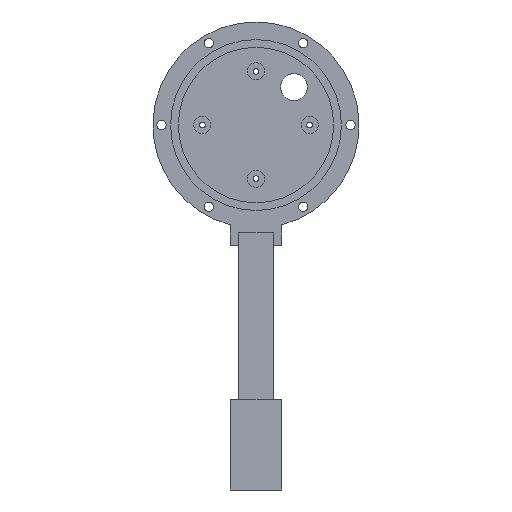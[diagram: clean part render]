
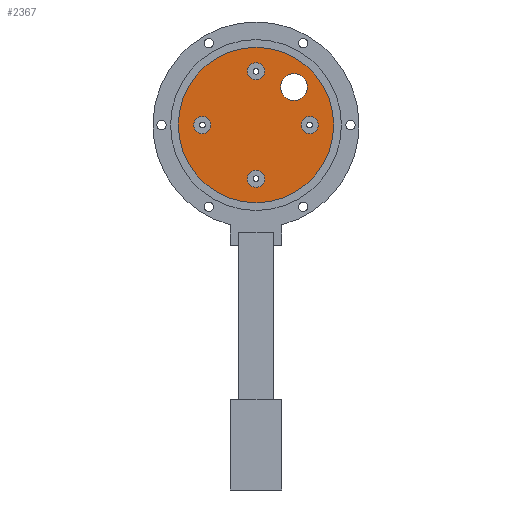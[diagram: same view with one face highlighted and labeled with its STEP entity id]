
A CAD part, left-side view. The second image highlights one B-rep face of the part: STEP entity #2367.
In plain terms, the highlighted planar face has unit normal (-1, 0, 0).
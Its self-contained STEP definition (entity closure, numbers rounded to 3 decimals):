
#958 = CYLINDRICAL_SURFACE('',#959,6.25);
#959 = AXIS2_PLACEMENT_3D('',#960,#961,#962);
#960 = CARTESIAN_POINT('',(71.8,-17.678,17.678));
#961 = DIRECTION('',(1.,0.,0.));
#962 = DIRECTION('',(-0.,0.,1.));
#1834 = VERTEX_POINT('',#1835);
#1835 = CARTESIAN_POINT('',(72.8,-17.678,23.928));
#1856 = EDGE_CURVE('',#1834,#1834,#1857,.T.);
#1857 = SURFACE_CURVE('',#1858,(#1863,#1870),.PCURVE_S1.);
#1858 = CIRCLE('',#1859,6.25);
#1859 = AXIS2_PLACEMENT_3D('',#1860,#1861,#1862);
#1860 = CARTESIAN_POINT('',(72.8,-17.678,17.678));
#1861 = DIRECTION('',(1.,0.,0.));
#1862 = DIRECTION('',(-0.,0.,1.));
#1863 = PCURVE('',#958,#1864);
#1864 = DEFINITIONAL_REPRESENTATION('',(#1865),#1869);
#1865 = LINE('',#1866,#1867);
#1866 = CARTESIAN_POINT('',(0.,1.));
#1867 = VECTOR('',#1868,1.);
#1868 = DIRECTION('',(1.,0.));
#1869 = ( GEOMETRIC_REPRESENTATION_CONTEXT(2) 
PARAMETRIC_REPRESENTATION_CONTEXT() REPRESENTATION_CONTEXT('2D SPACE',''
  ) );
#1870 = PCURVE('',#1871,#1876);
#1871 = PLANE('',#1872);
#1872 = AXIS2_PLACEMENT_3D('',#1873,#1874,#1875);
#1873 = CARTESIAN_POINT('',(72.8,0.,0.
    ));
#1874 = DIRECTION('',(1.,0.,0.));
#1875 = DIRECTION('',(-0.,0.,1.));
#1876 = DEFINITIONAL_REPRESENTATION('',(#1877),#1881);
#1877 = CIRCLE('',#1878,6.25);
#1878 = AXIS2_PLACEMENT_2D('',#1879,#1880);
#1879 = CARTESIAN_POINT('',(17.678,17.678));
#1880 = DIRECTION('',(1.,0.));
#1881 = ( GEOMETRIC_REPRESENTATION_CONTEXT(2) 
PARAMETRIC_REPRESENTATION_CONTEXT() REPRESENTATION_CONTEXT('2D SPACE',''
  ) );
#2173 = CYLINDRICAL_SURFACE('',#2174,36.2);
#2174 = AXIS2_PLACEMENT_3D('',#2175,#2176,#2177);
#2175 = CARTESIAN_POINT('',(71.8,0.,0.)
  );
#2176 = DIRECTION('',(-1.,-0.,-0.));
#2177 = DIRECTION('',(0.,1.,0.));
#2367 = ADVANCED_FACE('',(#2368,#2398,#2429,#2460,#2491,#2522),#1871,.F.
  );
#2368 = FACE_BOUND('',#2369,.F.);
#2369 = EDGE_LOOP('',(#2370));
#2370 = ORIENTED_EDGE('',*,*,#2371,.F.);
#2371 = EDGE_CURVE('',#2372,#2372,#2374,.T.);
#2372 = VERTEX_POINT('',#2373);
#2373 = CARTESIAN_POINT('',(72.8,36.2,0.));
#2374 = SURFACE_CURVE('',#2375,(#2380,#2391),.PCURVE_S1.);
#2375 = CIRCLE('',#2376,36.2);
#2376 = AXIS2_PLACEMENT_3D('',#2377,#2378,#2379);
#2377 = CARTESIAN_POINT('',(72.8,0.,0.)
  );
#2378 = DIRECTION('',(-1.,0.,0.));
#2379 = DIRECTION('',(0.,1.,0.));
#2380 = PCURVE('',#1871,#2381);
#2381 = DEFINITIONAL_REPRESENTATION('',(#2382),#2390);
#2382 = ( BOUNDED_CURVE() B_SPLINE_CURVE(2,(#2383,#2384,#2385,#2386,
#2387,#2388,#2389),.UNSPECIFIED.,.T.,.F.) B_SPLINE_CURVE_WITH_KNOTS((1,2
    ,2,2,2,1),(-2.094,0.,2.094,4.189,
6.283,8.378),.UNSPECIFIED.) CURVE() 
GEOMETRIC_REPRESENTATION_ITEM() RATIONAL_B_SPLINE_CURVE((1.,0.5,1.,0.5,
1.,0.5,1.)) REPRESENTATION_ITEM('') );
#2383 = CARTESIAN_POINT('',(0.,-36.2));
#2384 = CARTESIAN_POINT('',(-62.7,-36.2));
#2385 = CARTESIAN_POINT('',(-31.35,18.1));
#2386 = CARTESIAN_POINT('',(0.,72.4));
#2387 = CARTESIAN_POINT('',(31.35,18.1));
#2388 = CARTESIAN_POINT('',(62.7,-36.2));
#2389 = CARTESIAN_POINT('',(0.,-36.2));
#2390 = ( GEOMETRIC_REPRESENTATION_CONTEXT(2) 
PARAMETRIC_REPRESENTATION_CONTEXT() REPRESENTATION_CONTEXT('2D SPACE',''
  ) );
#2391 = PCURVE('',#2173,#2392);
#2392 = DEFINITIONAL_REPRESENTATION('',(#2393),#2397);
#2393 = LINE('',#2394,#2395);
#2394 = CARTESIAN_POINT('',(-6.283,-1.));
#2395 = VECTOR('',#2396,1.);
#2396 = DIRECTION('',(1.,-0.));
#2397 = ( GEOMETRIC_REPRESENTATION_CONTEXT(2) 
PARAMETRIC_REPRESENTATION_CONTEXT() REPRESENTATION_CONTEXT('2D SPACE',''
  ) );
#2398 = FACE_BOUND('',#2399,.F.);
#2399 = EDGE_LOOP('',(#2400));
#2400 = ORIENTED_EDGE('',*,*,#2401,.F.);
#2401 = EDGE_CURVE('',#2402,#2402,#2404,.T.);
#2402 = VERTEX_POINT('',#2403);
#2403 = CARTESIAN_POINT('',(72.8,25.,4.));
#2404 = SURFACE_CURVE('',#2405,(#2410,#2417),.PCURVE_S1.);
#2405 = CIRCLE('',#2406,4.);
#2406 = AXIS2_PLACEMENT_3D('',#2407,#2408,#2409);
#2407 = CARTESIAN_POINT('',(72.8,25.,0.));
#2408 = DIRECTION('',(1.,0.,0.));
#2409 = DIRECTION('',(-0.,0.,1.));
#2410 = PCURVE('',#1871,#2411);
#2411 = DEFINITIONAL_REPRESENTATION('',(#2412),#2416);
#2412 = CIRCLE('',#2413,4.);
#2413 = AXIS2_PLACEMENT_2D('',#2414,#2415);
#2414 = CARTESIAN_POINT('',(0.,-25.));
#2415 = DIRECTION('',(1.,0.));
#2416 = ( GEOMETRIC_REPRESENTATION_CONTEXT(2) 
PARAMETRIC_REPRESENTATION_CONTEXT() REPRESENTATION_CONTEXT('2D SPACE',''
  ) );
#2417 = PCURVE('',#2418,#2423);
#2418 = CYLINDRICAL_SURFACE('',#2419,4.);
#2419 = AXIS2_PLACEMENT_3D('',#2420,#2421,#2422);
#2420 = CARTESIAN_POINT('',(66.8,25.,0.));
#2421 = DIRECTION('',(1.,0.,0.));
#2422 = DIRECTION('',(-0.,0.,1.));
#2423 = DEFINITIONAL_REPRESENTATION('',(#2424),#2428);
#2424 = LINE('',#2425,#2426);
#2425 = CARTESIAN_POINT('',(0.,6.));
#2426 = VECTOR('',#2427,1.);
#2427 = DIRECTION('',(1.,0.));
#2428 = ( GEOMETRIC_REPRESENTATION_CONTEXT(2) 
PARAMETRIC_REPRESENTATION_CONTEXT() REPRESENTATION_CONTEXT('2D SPACE',''
  ) );
#2429 = FACE_BOUND('',#2430,.F.);
#2430 = EDGE_LOOP('',(#2431));
#2431 = ORIENTED_EDGE('',*,*,#2432,.F.);
#2432 = EDGE_CURVE('',#2433,#2433,#2435,.T.);
#2433 = VERTEX_POINT('',#2434);
#2434 = CARTESIAN_POINT('',(72.8,0.,-21.));
#2435 = SURFACE_CURVE('',#2436,(#2441,#2448),.PCURVE_S1.);
#2436 = CIRCLE('',#2437,4.);
#2437 = AXIS2_PLACEMENT_3D('',#2438,#2439,#2440);
#2438 = CARTESIAN_POINT('',(72.8,0.,-25.));
#2439 = DIRECTION('',(1.,0.,0.));
#2440 = DIRECTION('',(-0.,0.,1.));
#2441 = PCURVE('',#1871,#2442);
#2442 = DEFINITIONAL_REPRESENTATION('',(#2443),#2447);
#2443 = CIRCLE('',#2444,4.);
#2444 = AXIS2_PLACEMENT_2D('',#2445,#2446);
#2445 = CARTESIAN_POINT('',(-25.,0.));
#2446 = DIRECTION('',(1.,0.));
#2447 = ( GEOMETRIC_REPRESENTATION_CONTEXT(2) 
PARAMETRIC_REPRESENTATION_CONTEXT() REPRESENTATION_CONTEXT('2D SPACE',''
  ) );
#2448 = PCURVE('',#2449,#2454);
#2449 = CYLINDRICAL_SURFACE('',#2450,4.);
#2450 = AXIS2_PLACEMENT_3D('',#2451,#2452,#2453);
#2451 = CARTESIAN_POINT('',(66.8,0.,-25.));
#2452 = DIRECTION('',(1.,0.,0.));
#2453 = DIRECTION('',(-0.,0.,1.));
#2454 = DEFINITIONAL_REPRESENTATION('',(#2455),#2459);
#2455 = LINE('',#2456,#2457);
#2456 = CARTESIAN_POINT('',(0.,6.));
#2457 = VECTOR('',#2458,1.);
#2458 = DIRECTION('',(1.,0.));
#2459 = ( GEOMETRIC_REPRESENTATION_CONTEXT(2) 
PARAMETRIC_REPRESENTATION_CONTEXT() REPRESENTATION_CONTEXT('2D SPACE',''
  ) );
#2460 = FACE_BOUND('',#2461,.F.);
#2461 = EDGE_LOOP('',(#2462));
#2462 = ORIENTED_EDGE('',*,*,#2463,.F.);
#2463 = EDGE_CURVE('',#2464,#2464,#2466,.T.);
#2464 = VERTEX_POINT('',#2465);
#2465 = CARTESIAN_POINT('',(72.8,0.,29.));
#2466 = SURFACE_CURVE('',#2467,(#2472,#2479),.PCURVE_S1.);
#2467 = CIRCLE('',#2468,4.);
#2468 = AXIS2_PLACEMENT_3D('',#2469,#2470,#2471);
#2469 = CARTESIAN_POINT('',(72.8,0.,25.));
#2470 = DIRECTION('',(1.,0.,0.));
#2471 = DIRECTION('',(-0.,0.,1.));
#2472 = PCURVE('',#1871,#2473);
#2473 = DEFINITIONAL_REPRESENTATION('',(#2474),#2478);
#2474 = CIRCLE('',#2475,4.);
#2475 = AXIS2_PLACEMENT_2D('',#2476,#2477);
#2476 = CARTESIAN_POINT('',(25.,0.));
#2477 = DIRECTION('',(1.,0.));
#2478 = ( GEOMETRIC_REPRESENTATION_CONTEXT(2) 
PARAMETRIC_REPRESENTATION_CONTEXT() REPRESENTATION_CONTEXT('2D SPACE',''
  ) );
#2479 = PCURVE('',#2480,#2485);
#2480 = CYLINDRICAL_SURFACE('',#2481,4.);
#2481 = AXIS2_PLACEMENT_3D('',#2482,#2483,#2484);
#2482 = CARTESIAN_POINT('',(66.8,0.,25.));
#2483 = DIRECTION('',(1.,0.,0.));
#2484 = DIRECTION('',(-0.,0.,1.));
#2485 = DEFINITIONAL_REPRESENTATION('',(#2486),#2490);
#2486 = LINE('',#2487,#2488);
#2487 = CARTESIAN_POINT('',(0.,6.));
#2488 = VECTOR('',#2489,1.);
#2489 = DIRECTION('',(1.,0.));
#2490 = ( GEOMETRIC_REPRESENTATION_CONTEXT(2) 
PARAMETRIC_REPRESENTATION_CONTEXT() REPRESENTATION_CONTEXT('2D SPACE',''
  ) );
#2491 = FACE_BOUND('',#2492,.F.);
#2492 = EDGE_LOOP('',(#2493));
#2493 = ORIENTED_EDGE('',*,*,#2494,.F.);
#2494 = EDGE_CURVE('',#2495,#2495,#2497,.T.);
#2495 = VERTEX_POINT('',#2496);
#2496 = CARTESIAN_POINT('',(72.8,-25.,4.));
#2497 = SURFACE_CURVE('',#2498,(#2503,#2510),.PCURVE_S1.);
#2498 = CIRCLE('',#2499,4.);
#2499 = AXIS2_PLACEMENT_3D('',#2500,#2501,#2502);
#2500 = CARTESIAN_POINT('',(72.8,-25.,0.));
#2501 = DIRECTION('',(1.,0.,0.));
#2502 = DIRECTION('',(-0.,0.,1.));
#2503 = PCURVE('',#1871,#2504);
#2504 = DEFINITIONAL_REPRESENTATION('',(#2505),#2509);
#2505 = CIRCLE('',#2506,4.);
#2506 = AXIS2_PLACEMENT_2D('',#2507,#2508);
#2507 = CARTESIAN_POINT('',(0.,25.));
#2508 = DIRECTION('',(1.,0.));
#2509 = ( GEOMETRIC_REPRESENTATION_CONTEXT(2) 
PARAMETRIC_REPRESENTATION_CONTEXT() REPRESENTATION_CONTEXT('2D SPACE',''
  ) );
#2510 = PCURVE('',#2511,#2516);
#2511 = CYLINDRICAL_SURFACE('',#2512,4.);
#2512 = AXIS2_PLACEMENT_3D('',#2513,#2514,#2515);
#2513 = CARTESIAN_POINT('',(66.8,-25.,0.));
#2514 = DIRECTION('',(1.,0.,0.));
#2515 = DIRECTION('',(-0.,0.,1.));
#2516 = DEFINITIONAL_REPRESENTATION('',(#2517),#2521);
#2517 = LINE('',#2518,#2519);
#2518 = CARTESIAN_POINT('',(0.,6.));
#2519 = VECTOR('',#2520,1.);
#2520 = DIRECTION('',(1.,0.));
#2521 = ( GEOMETRIC_REPRESENTATION_CONTEXT(2) 
PARAMETRIC_REPRESENTATION_CONTEXT() REPRESENTATION_CONTEXT('2D SPACE',''
  ) );
#2522 = FACE_BOUND('',#2523,.F.);
#2523 = EDGE_LOOP('',(#2524));
#2524 = ORIENTED_EDGE('',*,*,#1856,.F.);
